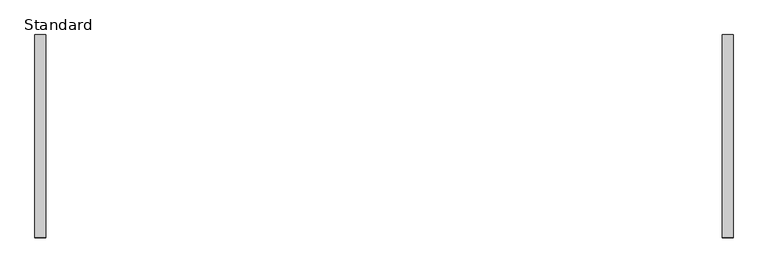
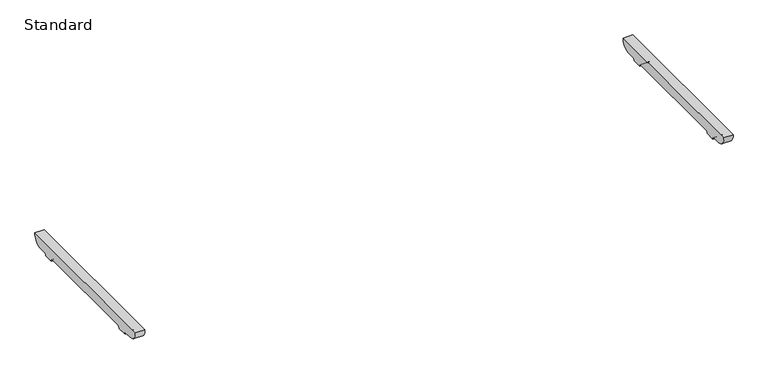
"""IFC4 building model written with IfcOpenShell, lengths in millimetres: furniture geometry, BDG_BossDesign_Tbls_AgentTables4Legs_Nested : Standard."""

from ifc_helpers import new_model, si_unit, point, frame, frame_2d, origin, place, context, project, spatial, polyline, circle_curve, trimmed, segment, composite_curve, outline, extrude, source, transform, mapped, element, save


def standard_20d5036e(model_context):
    return source(origin(), model_context, "Body", "SweptSolid", [
        extrude(outline(composite_curve([segment(polyline([(380.5450184, 672.0), (342.7000122, 672.0)]), True, "CONTINUOUS"), segment(trimmed(circle_curve(frame_2d((342.7000122, 660.0)), 12.0), [point((342.7000122, 672.0))], [point((330.7000122, 660.0))], True, "CARTESIAN"), True, "CONTINUOUS"), segment(polyline([(330.7000122, 660.0), (285.7000122, 660.0)]), True, "CONTINUOUS"), segment(trimmed(circle_curve(frame_2d((273.7000122, 660.0)), 12.0), [point((285.7000122, 660.0))], [point((273.7000122, 672.0))], True, "CARTESIAN"), True, "CONTINUOUS"), segment(polyline([(273.7000122, 672.0), (-273.7000122, 672.0)]), True, "CONTINUOUS"), segment(trimmed(circle_curve(frame_2d((-273.7000122, 660.0)), 12.0), [point((-273.7000122, 672.0))], [point((-285.7000122, 660.0))], True, "CARTESIAN"), True, "CONTINUOUS"), segment(polyline([(-285.7000122, 660.0), (-330.7000122, 660.0)]), True, "CONTINUOUS"), segment(trimmed(circle_curve(frame_2d((-342.7000122, 660.0)), 12.0), [point((-330.7000122, 660.0))], [point((-342.7000122, 672.0))], True, "CARTESIAN"), True, "CONTINUOUS"), segment(polyline([(-342.7000122, 672.0), (-380.5450184, 672.0)]), True, "CONTINUOUS"), segment(trimmed(circle_curve(frame_2d((-378.2220439, 716.5514119)), 44.6119324), [point((-380.5450184, 672.0))], [point((-422.5, 722.0))], False, "CARTESIAN"), True, "CONTINUOUS"), segment(polyline([(-422.5, 722.0), (422.5, 722.0)]), True, "CONTINUOUS"), segment(trimmed(circle_curve(frame_2d((378.2220439, 716.5514119)), 44.6119324), [point((422.5, 722.0))], [point((380.5450184, 672.0))], False, "CARTESIAN"), True, "CONTINUOUS")], self_intersect=False)), frame((1405.0, 0.0, 0.0), z_axis=(1.0, 0.0, 0.0), x_axis=(0.0, 1.0, 0.0)), (0.0, 0.0, 1.0), 45.0),
        extrude(outline(composite_curve([segment(polyline([(380.5450184, 672.0), (342.7000122, 672.0)]), True, "CONTINUOUS"), segment(trimmed(circle_curve(frame_2d((342.7000122, 660.0)), 12.0), [point((342.7000122, 672.0))], [point((330.7000122, 660.0))], True, "CARTESIAN"), True, "CONTINUOUS"), segment(polyline([(330.7000122, 660.0), (285.7000122, 660.0)]), True, "CONTINUOUS"), segment(trimmed(circle_curve(frame_2d((273.7000122, 660.0)), 12.0), [point((285.7000122, 660.0))], [point((273.7000122, 672.0))], True, "CARTESIAN"), True, "CONTINUOUS"), segment(polyline([(273.7000122, 672.0), (-273.7000122, 672.0)]), True, "CONTINUOUS"), segment(trimmed(circle_curve(frame_2d((-273.7000122, 660.0)), 12.0), [point((-273.7000122, 672.0))], [point((-285.7000122, 660.0))], True, "CARTESIAN"), True, "CONTINUOUS"), segment(polyline([(-285.7000122, 660.0), (-330.7000122, 660.0)]), True, "CONTINUOUS"), segment(trimmed(circle_curve(frame_2d((-342.7000122, 660.0)), 12.0), [point((-330.7000122, 660.0))], [point((-342.7000122, 672.0))], True, "CARTESIAN"), True, "CONTINUOUS"), segment(polyline([(-342.7000122, 672.0), (-380.5450184, 672.0)]), True, "CONTINUOUS"), segment(trimmed(circle_curve(frame_2d((-378.2220439, 716.5514119)), 44.6119324), [point((-380.5450184, 672.0))], [point((-422.5, 722.0))], False, "CARTESIAN"), True, "CONTINUOUS"), segment(polyline([(-422.5, 722.0), (422.5, 722.0)]), True, "CONTINUOUS"), segment(trimmed(circle_curve(frame_2d((378.2220439, 716.5514119)), 44.6119324), [point((422.5, 722.0))], [point((380.5450184, 672.0))], False, "CARTESIAN"), True, "CONTINUOUS")], self_intersect=False)), frame((-1450.0, 0.0, 0.0), z_axis=(1.0, 0.0, 0.0), x_axis=(0.0, 1.0, 0.0)), (0.0, 0.0, 1.0), 45.0),
    ])


if __name__ == "__main__":
    model = new_model("IFC4")
    model_context = context("Model", 3, world=origin())
    ifc_project = project(units=[si_unit("LENGTHUNIT", "METRE", prefix="MILLI")], contexts=[model_context])
    site = spatial("IfcSite", under=ifc_project)
    building = spatial("IfcBuilding", under=site)
    placement = place(None, origin())
    standard_shape = standard_20d5036e(model_context)
    element("IfcFurniture", 1, ObjectType="BDG_BossDesign_Tbls_AgentTables4Legs_Nested : Standard", at=placement, inside=building, context=model_context, shape_type="MappedRepresentation", body=[
        mapped(standard_shape, transform((0.0, 0.0, 0.0), x_axis=(1.0, 0.0, 0.0), y_axis=(0.0, 1.0, 0.0), z_axis=(0.0, 0.0, 1.0))),
    ])
    save(model, "model.ifc")
